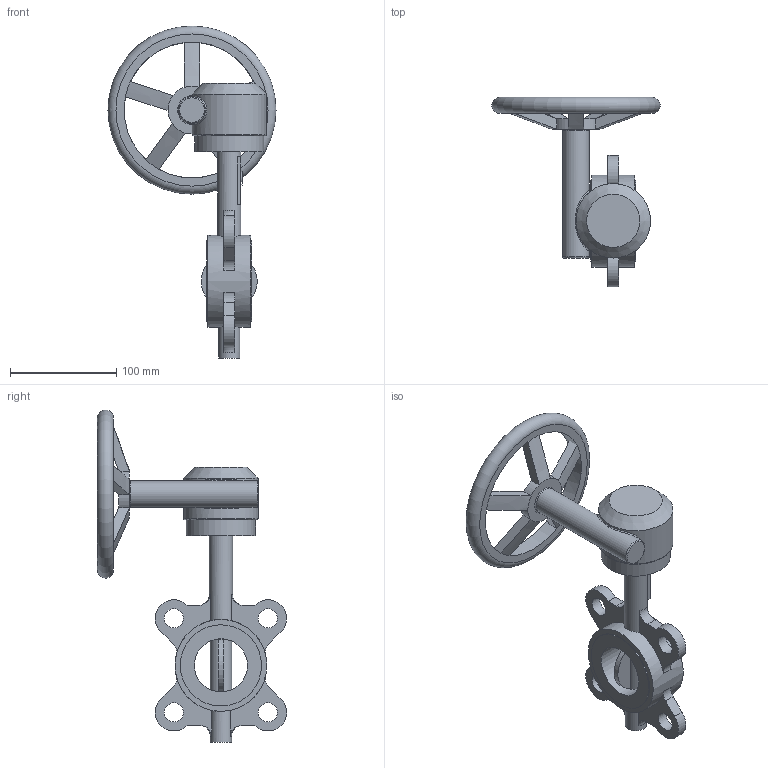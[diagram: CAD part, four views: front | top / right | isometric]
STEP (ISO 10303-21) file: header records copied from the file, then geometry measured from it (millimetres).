
FILE_DESCRIPTION(('STEP AP203'), '1');
FILE_NAME('青蜮铕 017W.Y_DN50_疱潴牝铕', '', ('UNSPECIFIED'), ('UNSPECIFIED'), 'ASCON STEP Converter 1.6', 'ASCON Math Kernel', '');
FILE_SCHEMA(('CONFIG_CONTROL_DESIGN'));
Length unit declared in the file: millimetre
Bounding box: 157.98 x 177.63 x 311.99 mm (x, y, z)
Volume: 680975.5 mm3; surface area: 118255.3 mm2
Topology: 1 solids, 1 shells, 138 faces, 345 edges, 218 vertices
Faces by surface type: plane 64, cylinder 45, cone 19, torus 8, bspline 2
Full cylindrical faces by diameter (mm): 6.647 x4, 8 x4, 18 x4, 20 x2, 22 x1, 25 x1, 50 x1, 65 x1, 70 x1, 76.3 x2, 86.3 x1, 127.563 x1
Entity records: 7131 total; most frequent: CARTESIAN_POINT 2798, DIRECTION 678, ORIENTED_EDGE 606, EDGE_CURVE 303, AXIS2_PLACEMENT_3D 282, VERTEX_POINT 214, EDGE_LOOP 207, CIRCLE 145
